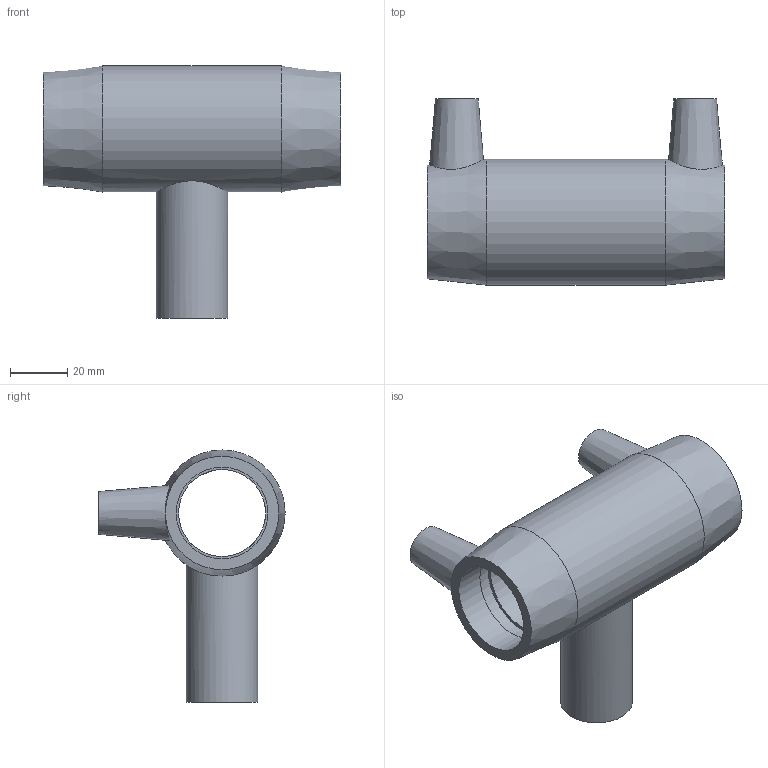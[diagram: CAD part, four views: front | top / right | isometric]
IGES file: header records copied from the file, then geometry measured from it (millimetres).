
Global section: file name: 491404032025.ipt; native system: Autodesk Inventor 2015; preprocessor: unknown; author: KIM; date: 20171106.093836; units: millimetre
Bounding box: 104 x 65 x 88 mm (x, y, z)
Volume: 84055.8 mm3; surface area: 35403.8 mm2
Topology: 1 solids, 1 shells, 31 faces, 72 edges, 52 vertices
Faces by surface type: plane 13, revolution 10, cylinder 4, cone 4
Full cylindrical faces by diameter (mm): 4 x2, 25 x1, 44 x1
